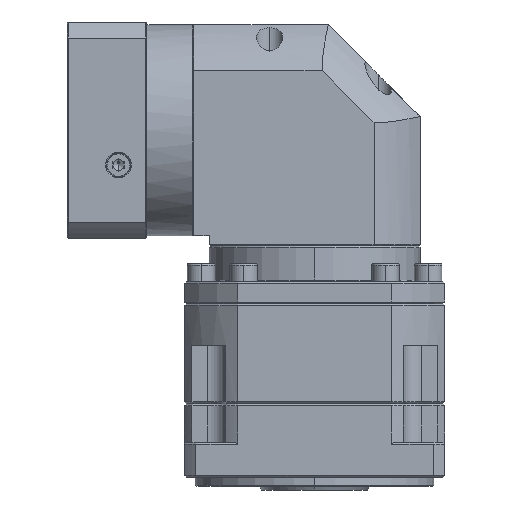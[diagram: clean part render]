
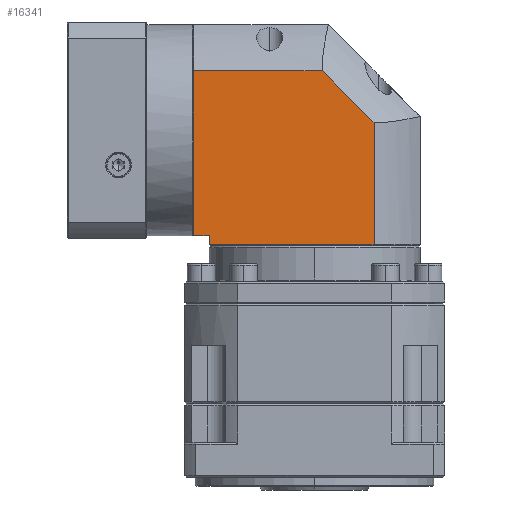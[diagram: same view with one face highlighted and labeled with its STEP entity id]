
A CAD part, left-side view. The second image highlights one B-rep face of the part: STEP entity #16341.
In plain terms, the highlighted planar face has unit normal (-1, 0, 0).
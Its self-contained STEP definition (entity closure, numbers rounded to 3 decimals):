
#65 = LINE ( 'NONE', #48477, #11950 ) ;
#3386 = DIRECTION ( 'NONE',  ( 0., -0.707, -0.707 ) ) ;
#4926 = ORIENTED_EDGE ( 'NONE', *, *, #80030, .F. ) ;
#9607 = CARTESIAN_POINT ( 'NONE',  ( -164.256, 151.46, 43.776 ) ) ;
#11950 = VECTOR ( 'NONE', #58894, 1000. ) ;
#12198 = VERTEX_POINT ( 'NONE', #84432 ) ;
#14917 = ORIENTED_EDGE ( 'NONE', *, *, #136389, .F. ) ;
#16341 = ADVANCED_FACE ( 'NONE', ( #135244 ), #120918, .F. ) ;
#16882 = ORIENTED_EDGE ( 'NONE', *, *, #108480, .T. ) ;
#18938 = CARTESIAN_POINT ( 'NONE',  ( -164.256, 61.56, -76.224 ) ) ;
#21577 = EDGE_CURVE ( 'NONE', #48151, #12198, #65, .T. ) ;
#26841 = EDGE_CURVE ( 'NONE', #115714, #124847, #113682, .T. ) ;
#34679 = DIRECTION ( 'NONE',  ( 0., 0., 1. ) ) ;
#35290 = LINE ( 'NONE', #88430, #89614 ) ;
#38221 = CARTESIAN_POINT ( 'NONE',  ( -164.256, 151.46, -71.224 ) ) ;
#38329 = CARTESIAN_POINT ( 'NONE',  ( -164.256, 61.56, -82.724 ) ) ;
#40336 = DIRECTION ( 'NONE',  ( 0., 1., 0. ) ) ;
#41117 = DIRECTION ( 'NONE',  ( 0., 0., -1. ) ) ;
#46441 = VECTOR ( 'NONE', #3386, 1000. ) ;
#48151 = VERTEX_POINT ( 'NONE', #50245 ) ;
#48477 = CARTESIAN_POINT ( 'NONE',  ( -164.256, 36.46, 18.676 ) ) ;
#50245 = CARTESIAN_POINT ( 'NONE',  ( -164.256, 159.86, 18.676 ) ) ;
#51556 = VERTEX_POINT ( 'NONE', #84425 ) ;
#56811 = CARTESIAN_POINT ( 'NONE',  ( -164.256, 36.46, -82.724 ) ) ;
#57401 = CARTESIAN_POINT ( 'NONE',  ( -164.256, 159.86, -82.724 ) ) ;
#58894 = DIRECTION ( 'NONE',  ( 0., -1., 0. ) ) ;
#59103 = LINE ( 'NONE', #116231, #64143 ) ;
#61669 = LINE ( 'NONE', #91731, #46441 ) ;
#64143 = VECTOR ( 'NONE', #40336, 1000. ) ;
#65297 = VECTOR ( 'NONE', #34679, 1000. ) ;
#65869 = DIRECTION ( 'NONE',  ( 1., 0., 0. ) ) ;
#68902 = ORIENTED_EDGE ( 'NONE', *, *, #21577, .F. ) ;
#71034 = AXIS2_PLACEMENT_3D ( 'NONE', #56811, #65869, #99568 ) ;
#74306 = ORIENTED_EDGE ( 'NONE', *, *, #26841, .F. ) ;
#77959 = VERTEX_POINT ( 'NONE', #38221 ) ;
#80030 = EDGE_CURVE ( 'NONE', #12198, #115714, #61669, .T. ) ;
#81509 = EDGE_LOOP ( 'NONE', ( #74306, #4926, #68902, #14917, #16882, #111186, #89992 ) ) ;
#84425 = CARTESIAN_POINT ( 'NONE',  ( -164.256, 151.46, -76.224 ) ) ;
#84432 = CARTESIAN_POINT ( 'NONE',  ( -164.256, 89.898, 18.676 ) ) ;
#84852 = VECTOR ( 'NONE', #41117, 1000. ) ;
#88430 = CARTESIAN_POINT ( 'NONE',  ( -164.256, 151.46, -71.224 ) ) ;
#89614 = VECTOR ( 'NONE', #122115, 1000. ) ;
#89992 = ORIENTED_EDGE ( 'NONE', *, *, #111800, .F. ) ;
#91731 = CARTESIAN_POINT ( 'NONE',  ( -164.256, 89.898, 18.676 ) ) ;
#99568 = DIRECTION ( 'NONE',  ( 0., -1., 0. ) ) ;
#107356 = DIRECTION ( 'NONE',  ( 0., 0., -1. ) ) ;
#108480 = EDGE_CURVE ( 'NONE', #119871, #77959, #35290, .T. ) ;
#111186 = ORIENTED_EDGE ( 'NONE', *, *, #111492, .T. ) ;
#111492 = EDGE_CURVE ( 'NONE', #77959, #51556, #117009, .T. ) ;
#111757 = CARTESIAN_POINT ( 'NONE',  ( -164.256, 61.56, -9.662 ) ) ;
#111800 = EDGE_CURVE ( 'NONE', #124847, #51556, #59103, .T. ) ;
#113682 = LINE ( 'NONE', #38329, #84852 ) ;
#115714 = VERTEX_POINT ( 'NONE', #111757 ) ;
#116231 = CARTESIAN_POINT ( 'NONE',  ( -164.256, 36.46, -76.224 ) ) ;
#117009 = LINE ( 'NONE', #9607, #137421 ) ;
#119385 = CARTESIAN_POINT ( 'NONE',  ( -164.256, 159.86, -71.224 ) ) ;
#119871 = VERTEX_POINT ( 'NONE', #119385 ) ;
#120918 = PLANE ( 'NONE',  #71034 ) ;
#121438 = LINE ( 'NONE', #57401, #65297 ) ;
#122115 = DIRECTION ( 'NONE',  ( 0., -1., 0. ) ) ;
#124847 = VERTEX_POINT ( 'NONE', #18938 ) ;
#135244 = FACE_OUTER_BOUND ( 'NONE', #81509, .T. ) ;
#136389 = EDGE_CURVE ( 'NONE', #119871, #48151, #121438, .T. ) ;
#137421 = VECTOR ( 'NONE', #107356, 1000. ) ;
